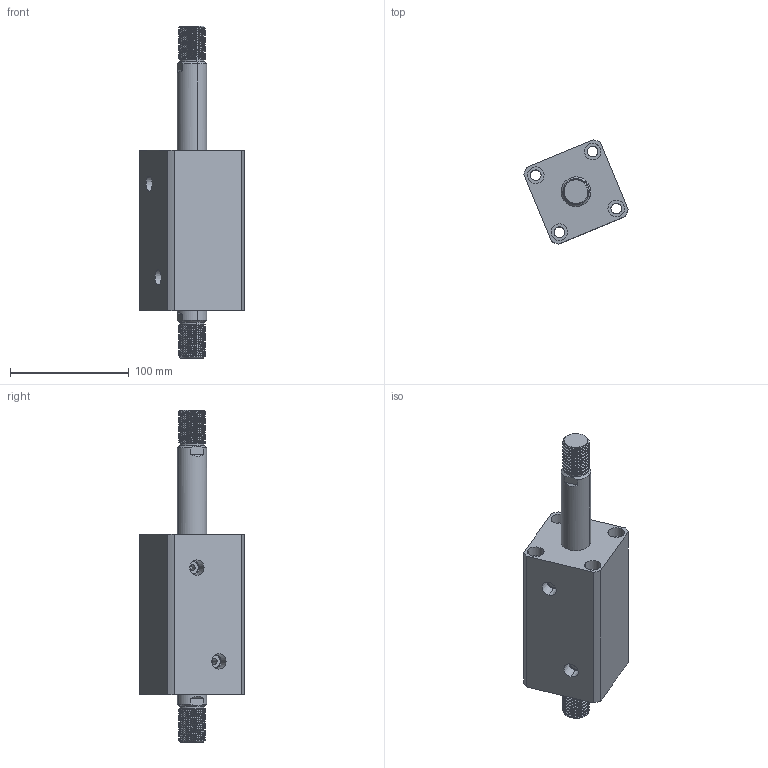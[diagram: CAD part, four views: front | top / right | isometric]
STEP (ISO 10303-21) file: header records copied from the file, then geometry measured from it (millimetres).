
FILE_DESCRIPTION (( 'STEP AP214' ), '1' );
FILE_NAME ('chtb-sw40x65w_asm.STEP', '2018-06-08T10:31:04', ( 'Windows' ), ( 'Microsoft' ), 'SwSTEP 2.0', 'SolidWorks 2015', '' );
FILE_SCHEMA (( 'AUTOMOTIVE_DESIGN' ));
Length unit declared in the file: millimetre
Products named in the file (4): CHTB-SW40X65NHSG; CHTB-SW40X65NBT; CHTB-SD40QG; chtb-sw40x65w_asm
Assembly tree (3 placements, depth 2):
  chtb-sw40x65w_asm
    CHTB-SD40QG
    CHTB-SW40X65NBT
    CHTB-SW40X65NHSG
Bounding box: 88.11 x 88.11 x 280 mm (x, y, z)
Volume: 623660 mm3; surface area: 115952.4 mm2
Topology: 3 solids, 3 shells, 254 faces, 680 edges, 452 vertices
Faces by surface type: cylinder 160, plane 46, bspline 18, cone 18, torus 12
Entity records: 17389 total; most frequent: CARTESIAN_POINT 11402, ORIENTED_EDGE 1348, DIRECTION 1094, EDGE_CURVE 674, VERTEX_POINT 452, AXIS2_PLACEMENT_3D 443, EDGE_LOOP 296, ADVANCED_FACE 254
